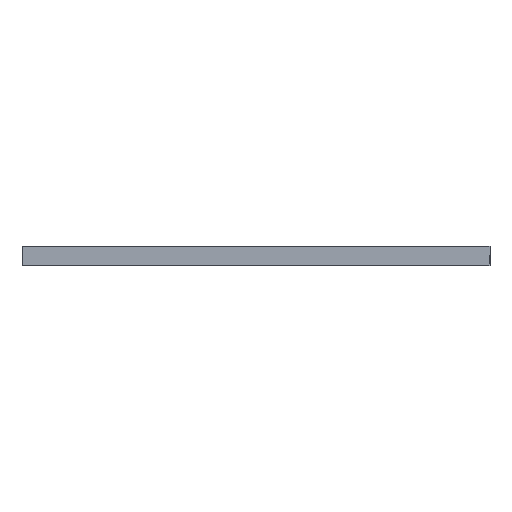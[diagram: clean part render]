
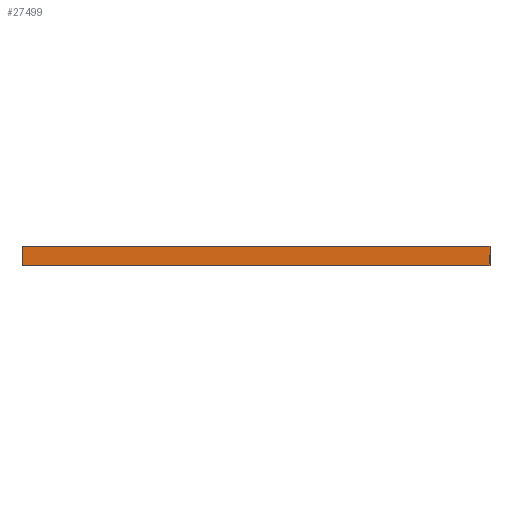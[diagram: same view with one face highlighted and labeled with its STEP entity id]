
A CAD part, front view. The second image highlights one B-rep face of the part: STEP entity #27499.
In plain terms, the highlighted planar face has unit normal (0, -1, 0).
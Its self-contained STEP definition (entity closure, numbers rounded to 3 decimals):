
#1293 = CARTESIAN_POINT ( 'NONE',  ( 0., -150., 0.5 ) ) ;
#3364 = AXIS2_PLACEMENT_3D ( 'NONE', #43651, #10937, #35114 ) ;
#4514 = ORIENTED_EDGE ( 'NONE', *, *, #37913, .F. ) ;
#4573 = ORIENTED_EDGE ( 'NONE', *, *, #18374, .T. ) ;
#6263 = FACE_OUTER_BOUND ( 'NONE', #35081, .T. ) ;
#6580 = LINE ( 'NONE', #23343, #51814 ) ;
#8085 = EDGE_CURVE ( 'NONE', #9598, #25829, #6580, .T. ) ;
#9598 = VERTEX_POINT ( 'NONE', #24568 ) ;
#10937 = DIRECTION ( 'NONE',  ( 0., 1., 0. ) ) ;
#11435 = CARTESIAN_POINT ( 'NONE',  ( 0., -150., 0. ) ) ;
#13790 = LINE ( 'NONE', #30832, #25071 ) ;
#18374 = EDGE_CURVE ( 'NONE', #25829, #34801, #13790, .T. ) ;
#20403 = VECTOR ( 'NONE', #54211, 1000. ) ;
#20666 = CARTESIAN_POINT ( 'NONE',  ( 0., -150., 0.5 ) ) ;
#23295 = PLANE ( 'NONE',  #3364 ) ;
#23343 = CARTESIAN_POINT ( 'NONE',  ( -12., -150., 0.5 ) ) ;
#24568 = CARTESIAN_POINT ( 'NONE',  ( -12., -150., 0.5 ) ) ;
#25071 = VECTOR ( 'NONE', #47616, 1000. ) ;
#25829 = VERTEX_POINT ( 'NONE', #27813 ) ;
#27499 = ADVANCED_FACE ( 'NONE', ( #6263 ), #23295, .F. ) ;
#27813 = CARTESIAN_POINT ( 'NONE',  ( -12., -150., 0. ) ) ;
#29051 = EDGE_CURVE ( 'NONE', #9598, #48872, #33163, .T. ) ;
#30832 = CARTESIAN_POINT ( 'NONE',  ( -12., -150., 0. ) ) ;
#32623 = DIRECTION ( 'NONE',  ( 1., 0., 0. ) ) ;
#32782 = LINE ( 'NONE', #20666, #20403 ) ;
#33163 = LINE ( 'NONE', #41679, #40325 ) ;
#34801 = VERTEX_POINT ( 'NONE', #11435 ) ;
#35081 = EDGE_LOOP ( 'NONE', ( #4573, #4514, #36607, #46079 ) ) ;
#35114 = DIRECTION ( 'NONE',  ( -1., 0., 0. ) ) ;
#36607 = ORIENTED_EDGE ( 'NONE', *, *, #29051, .F. ) ;
#37913 = EDGE_CURVE ( 'NONE', #48872, #34801, #32782, .T. ) ;
#40109 = DIRECTION ( 'NONE',  ( 0., 0., -1. ) ) ;
#40325 = VECTOR ( 'NONE', #32623, 1000. ) ;
#41679 = CARTESIAN_POINT ( 'NONE',  ( -12., -150., 0.5 ) ) ;
#43651 = CARTESIAN_POINT ( 'NONE',  ( -12., -150., 0.5 ) ) ;
#46079 = ORIENTED_EDGE ( 'NONE', *, *, #8085, .T. ) ;
#47616 = DIRECTION ( 'NONE',  ( 1., 0., 0. ) ) ;
#48872 = VERTEX_POINT ( 'NONE', #1293 ) ;
#51814 = VECTOR ( 'NONE', #40109, 1000. ) ;
#54211 = DIRECTION ( 'NONE',  ( 0., 0., -1. ) ) ;
